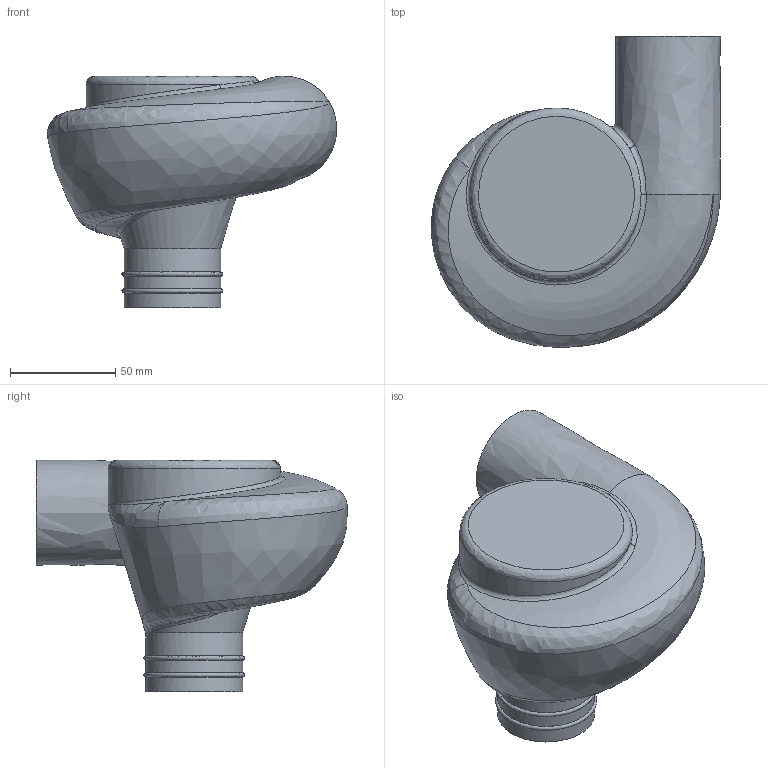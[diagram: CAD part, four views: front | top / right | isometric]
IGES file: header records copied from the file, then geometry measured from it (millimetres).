
Global section: file name: Zyklon II_IGES; native system: unknown; preprocessor: unknown; author: unknown; organization: unknown; date: 20250915.211544; units: millimetre
Bounding box: 137.42 x 147.81 x 110 mm (x, y, z)
Volume: 99402.8 mm3; surface area: 101427.9 mm2
Topology: 3 solids, 3 shells, 46 faces, 177 edges, 130 vertices
Faces by surface type: bspline 46
